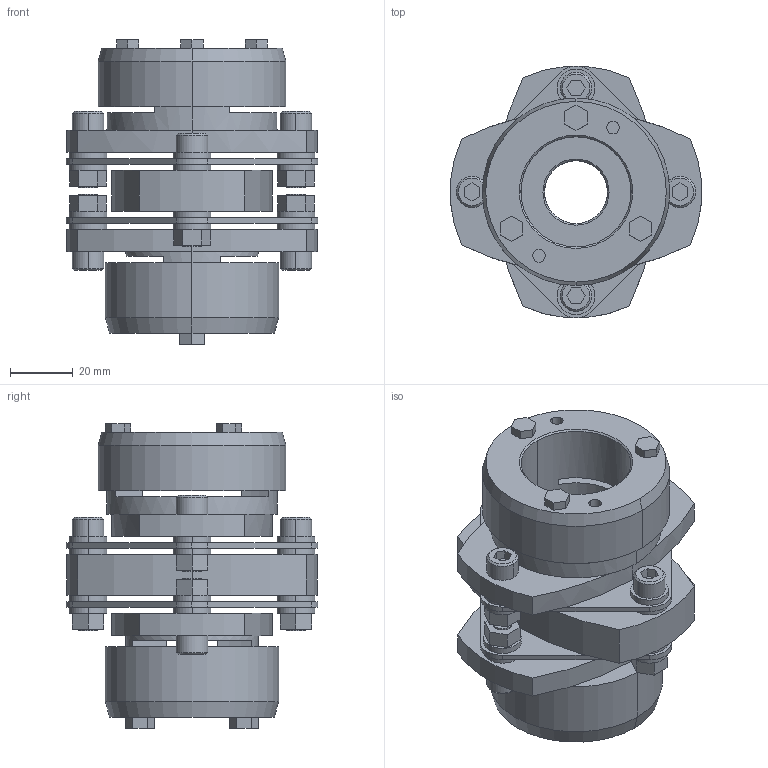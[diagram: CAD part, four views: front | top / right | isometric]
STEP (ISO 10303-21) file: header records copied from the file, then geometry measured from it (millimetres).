
FILE_DESCRIPTION((''),'2;1');
FILE_NAME('LCD-80T7-20×35.stp','2011-09-15T13:46:51',(''),(''),'AutoCAD STEP 2000i','AutoCAD 2000i',', , ');
FILE_SCHEMA(('CONFIG_CONTROL_DESIGN'));
Length unit declared in the file: millimetre
Products named in the file (13): LCD-80T7-19×35; 忣兜1; LC80T7-T035; LC80T7-T032; LC80T7-T030; LC80T7-T028; LC80T7-T024; LC80T7-T022; LC80T7-T019-1; LC80T7-T019; LC80T7-T017-1; LC80T7-T017; LCD80-ITA
Assembly tree (12 placements, depth 2):
  LCD-80T7-19×35
    忣兜1
    LC80T7-T035
    LC80T7-T032
    LC80T7-T030
    LC80T7-T028
    LC80T7-T024
    LC80T7-T022
    LC80T7-T019-1
    LC80T7-T019
    LC80T7-T017-1
    LC80T7-T017
    LCD80-ITA
Bounding box: 80 x 79.95 x 96.8 mm (x, y, z)
Volume: 178893.3 mm3; surface area: 57979.7 mm2
Topology: 1 solids, 1 shells, 316 faces, 770 edges, 504 vertices
Faces by surface type: plane 172, cylinder 120, cone 24
Entity records: 9633 total; most frequent: DIRECTION 1716, CARTESIAN_POINT 1603, ORIENTED_EDGE 1540, EDGE_CURVE 770, AXIS2_PLACEMENT_3D 617, VERTEX_POINT 504, VECTOR 482, LINE 482
